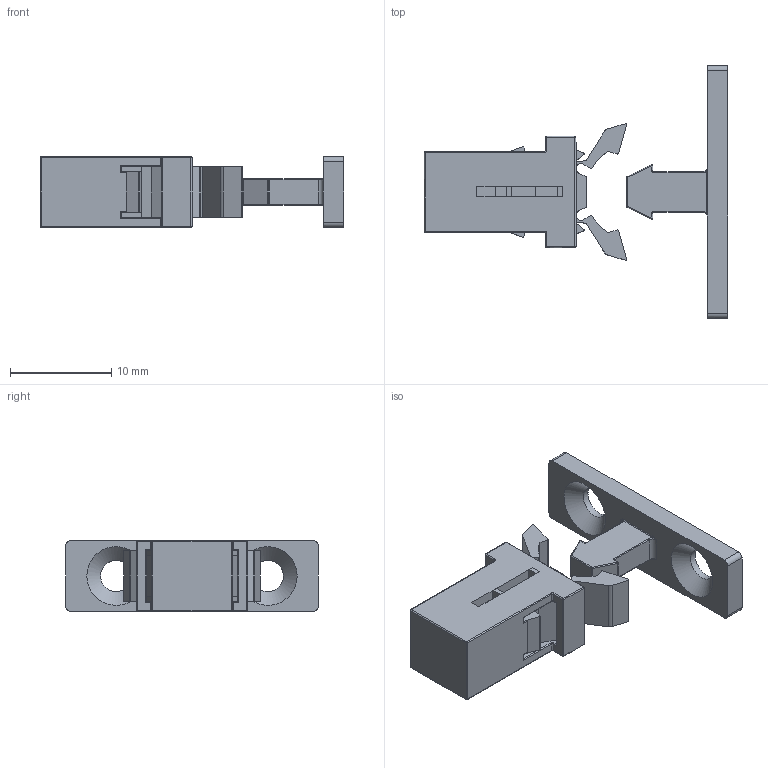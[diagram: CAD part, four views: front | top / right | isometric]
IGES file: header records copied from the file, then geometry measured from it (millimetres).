
Global section: file name: DR_B-OT8; native system: Autodesk Inventor 2015; preprocessor: unknown; author: CHANNEL&J; date: 20221202.123115; units: millimetre
Bounding box: 30 x 25 x 7 mm (x, y, z)
Volume: 1450.5 mm3; surface area: 2327.2 mm2
Topology: 4 solids, 4 shells, 252 faces, 630 edges, 382 vertices
Faces by surface type: bspline 252
